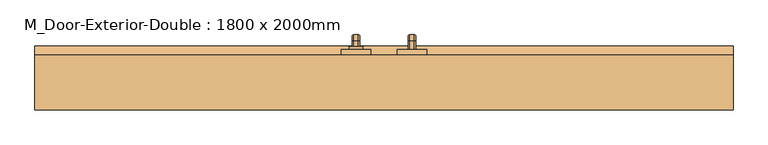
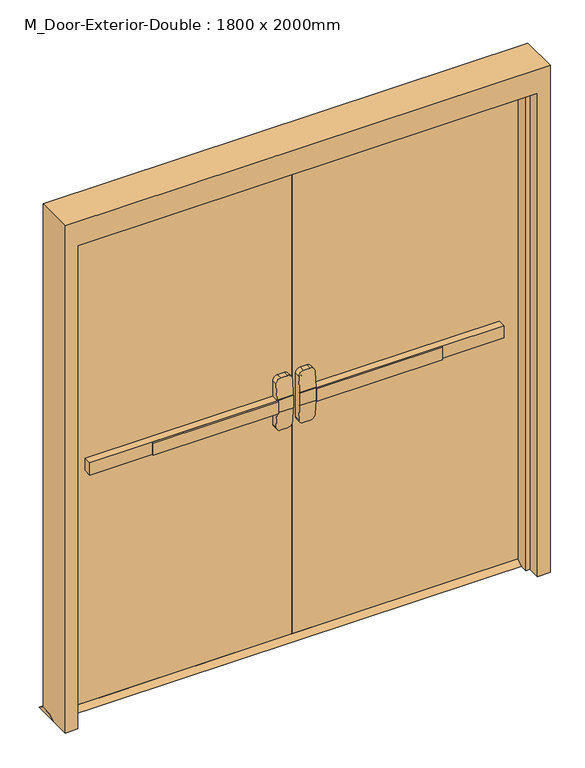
"""IFC4 building model written with IfcOpenShell, lengths in millimetres: door geometry, M_Door-Exterior-Double : 1800 x 2000mm."""

from ifc_helpers import new_model, si_unit, point, frame, frame_2d, origin, place, context, project, spatial, polyline, circle_curve, ellipse_curve, trimmed, segment, composite_curve, outline, extrude, faceted_brep, source, transform, mapped, element, save
from ifc_brep_helpers import plane_surface, cylinder_surface, revolved_surface, advanced_brep


def m_door_exterior_double_1800_x_2000mm_bb9cb4d2(model_context):
    return source(origin(), model_context, "Body", "SolidModel", [
        extrude(outline(polyline([(-566.1333333, 112.75), (-566.1333333, 119.1), (-76.2, 119.1), (-76.2, 112.75), (-566.1333333, 112.75)])), frame((0.0, 0.0, 974.6), z_axis=(0.0, 0.0, 1.0), x_axis=(1.0, 0.0, 0.0)), (0.0, 0.0, 1.0), 50.8),
        advanced_brep(
        [(-12.7, 119.1, 1025.4), (-76.2, 119.1, 1025.4), (-811.1, 119.1, 1025.4), (-811.1, 119.1, 974.6), (-76.2, 119.1, 974.6), (-12.7, 119.1, 974.6), (-811.1, 150.85, 1025.4), (-76.2, 150.85, 1025.4), (-76.2, 150.85, 1088.9), (-57.15, 150.85, 1107.95), (-31.75, 150.85, 1107.95), (-12.7, 150.85, 1088.9), (-12.7, 150.85, 911.1), (-31.75, 150.85, 892.05), (-57.15, 150.85, 892.05), (-76.2, 150.85, 911.1), (-76.2, 150.85, 974.6), (-811.1, 150.85, 974.6), (-12.7, 122.2752467, 1025.4), (-76.2, 122.2752467, 1025.4), (-12.7, 122.2752467, 974.6), (-12.7, 127.2854269, 911.1), (-12.7, 127.2854269, 1088.9), (-76.2, 122.2752467, 974.6), (-76.2, 127.2854269, 1088.9), (-76.2, 127.2854269, 911.1), (-57.15, 128.788481, 1107.95), (-31.75, 128.788481, 1107.95), (-31.75, 128.788481, 892.05), (-57.15, 128.788481, 892.05)],
        [
            (0, 1),
            (1, 2),
            (2, 3),
            (3, 4),
            (4, 5),
            (5, 0),
            (6, 7),
            (7, 8),
            (8, 9, circle_curve(frame((-57.15, 150.85, 1088.9), z_axis=(0.0, 1.0, 0.0), x_axis=(-1.0, 0.0, 0.0)), 19.05)),
            (9, 10),
            (10, 11, circle_curve(frame((-31.75, 150.85, 1088.9), z_axis=(0.0, 1.0, 0.0), x_axis=(-1.0, 0.0, 0.0)), 19.05)),
            (11, 12),
            (12, 13, circle_curve(frame((-31.75, 150.85, 911.1), z_axis=(0.0, 1.0, 0.0), x_axis=(-1.0, 0.0, 0.0)), 19.05)),
            (13, 14),
            (14, 15, circle_curve(frame((-57.15, 150.85, 911.1), z_axis=(0.0, 1.0, 0.0), x_axis=(-1.0, 0.0, 0.0)), 19.05)),
            (15, 16),
            (16, 17),
            (17, 6),
            (0, 18),
            (18, 19),
            (19, 7),
            (6, 2),
            (5, 20),
            (20, 21),
            (21, 12),
            (11, 22),
            (22, 18),
            (16, 23),
            (23, 20),
            (3, 17),
            (19, 24),
            (24, 8),
            (15, 25),
            (25, 23),
            (9, 26),
            (26, 27),
            (27, 10),
            (13, 28),
            (28, 29),
            (29, 14),
            (29, 25, ellipse_curve(frame((-57.15, 127.2854269, 911.1), z_axis=(0.0, 0.9969018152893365, 0.07865602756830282), x_axis=(0.0, -0.07865602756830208, 0.9969018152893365)), 19.1092038, 19.05)),
            (24, 26, ellipse_curve(frame((-57.15, 127.2854269, 1088.9), z_axis=(0.0, 0.9969018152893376, -0.07865602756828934), x_axis=(0.0, -0.078656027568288, -0.9969018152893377)), 19.1092038, 19.05)),
            (27, 22, ellipse_curve(frame((-31.75, 127.2854269, 1088.9), z_axis=(0.0, 0.9969018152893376, -0.07865602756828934), x_axis=(0.0, -0.078656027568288, -0.9969018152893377)), 19.1092038, 19.05)),
            (21, 28, ellipse_curve(frame((-31.75, 127.2854269, 911.1), z_axis=(0.0, 0.9969018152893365, 0.07865602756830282), x_axis=(0.0, -0.07865602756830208, 0.9969018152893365)), 19.1092038, 19.05)),
        ],
        [
            plane_surface(frame((-12.7, 119.1, 1025.4), z_axis=(0.0, -1.0, 0.0), x_axis=(1.0, 0.0, 0.0))),
            plane_surface(frame((-12.7, 150.85, 1025.4), z_axis=(0.0, 1.0, 0.0), x_axis=(-1.0, 0.0, 0.0))),
            plane_surface(frame((-811.1, 119.1, 1025.4), z_axis=(0.0, 0.0, 1.0), x_axis=(0.0, 1.0, 0.0))),
            plane_surface(frame((-12.7, 119.1, 1025.4), z_axis=(1.0, 0.0, 0.0), x_axis=(0.0, 1.0, 0.0))),
            plane_surface(frame((-12.7, 119.1, 974.6), z_axis=(0.0, 0.0, -1.0), x_axis=(0.0, 1.0, 0.0))),
            plane_surface(frame((-811.1, 119.1, 974.6), z_axis=(-1.0, 0.0, 0.0), x_axis=(0.0, 1.0, 0.0))),
            plane_surface(frame((-76.2, 122.2752467, 911.1), z_axis=(-1.0, 0.0, 0.0), x_axis=(0.0, 1.0, 0.0))),
            plane_surface(frame((-57.15, 122.2752467, 1107.95), z_axis=(0.0, 0.0, 1.0), x_axis=(0.0, 1.0, 0.0))),
            plane_surface(frame((-31.75, 122.2752467, 892.05), z_axis=(0.0, 0.0, -1.0), x_axis=(0.0, 1.0, 0.0))),
            cylinder_surface(frame((-57.15, 150.85, 911.1), z_axis=(0.0, -1.0, 0.0), x_axis=(-1.0, 0.0, 0.0)), 19.05),
            cylinder_surface(frame((-57.15, 150.85, 1088.9), z_axis=(0.0, -1.0, 0.0), x_axis=(-1.0, 0.0, 0.0)), 19.05),
            cylinder_surface(frame((-31.75, 150.85, 1088.9), z_axis=(0.0, -1.0, 0.0), x_axis=(-1.0, 0.0, 0.0)), 19.05),
            cylinder_surface(frame((-31.75, 150.85, 911.1), z_axis=(0.0, -1.0, 0.0), x_axis=(-1.0, 0.0, 0.0)), 19.05),
            plane_surface(frame((-76.2, 122.2752467, 1025.4), z_axis=(0.0, -0.9969018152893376, 0.07865602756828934), x_axis=(1.0, 0.0, 0.0))),
            plane_surface(frame((-76.2, 128.788481, 892.05), z_axis=(0.0, -0.9969018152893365, -0.07865602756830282), x_axis=(1.0, 0.0, 0.0))),
        ],
        [
            (0, [[1, 2, 3, 4, 5, 6]]),
            (1, [[7, 8, 9, 10, 11, 12, 13, 14, 15, 16, 17, 18]]),
            (2, [[-2, -1, 19, 20, 21, -7, 22]]),
            (3, [[23, 24, 25, -12, 26, 27, -19, -6]]),
            (4, [[-17, 28, 29, -23, -5, -4, 30]]),
            (5, [[-22, -18, -30, -3]]),
            (6, [[-21, 31, 32, -8]]),
            (6, [[33, 34, -28, -16]]),
            (7, [[35, 36, 37, -10]]),
            (8, [[38, 39, 40, -14]]),
            (9, [[-40, 41, -33, -15]]),
            (10, [[-32, 42, -35, -9]]),
            (11, [[-37, 43, -26, -11]]),
            (12, [[-25, 44, -38, -13]]),
            (13, [[-27, -43, -36, -42, -31, -20]]),
            (14, [[-29, -34, -41, -39, -44, -24]]),
        ],
    ),
        extrude(outline(polyline([(195.85, 15.0), (221.25, 0.0), (125.45, 0.0), (150.85, 15.0), (195.85, 15.0)])), frame((-950.0, 0.0, 0.0), z_axis=(1.0, 0.0, 0.0), x_axis=(0.0, 1.0, 0.0)), (0.0, 0.0, 1.0), 1900.0),
        extrude(outline(polyline([(566.1333333, 112.75), (76.2, 112.75), (76.2, 119.1), (566.1333333, 119.1), (566.1333333, 112.75)])), frame((0.0, 0.0, 974.6), z_axis=(0.0, 0.0, 1.0), x_axis=(1.0, 0.0, 0.0)), (0.0, 0.0, 1.0), 50.8),
        advanced_brep(
        [(12.7, 119.1, 1025.4), (12.7, 119.1, 974.6), (76.2, 119.1, 974.6), (811.1, 119.1, 974.6), (811.1, 119.1, 1025.4), (76.2, 119.1, 1025.4), (811.1, 150.85, 1025.4), (811.1, 150.85, 974.6), (76.2, 150.85, 974.6), (76.2, 150.85, 911.1), (57.15, 150.85, 892.05), (31.75, 150.85, 892.05), (12.7, 150.85, 911.1), (12.7, 150.85, 1088.9), (31.75, 150.85, 1107.95), (57.15, 150.85, 1107.95), (76.2, 150.85, 1088.9), (76.2, 150.85, 1025.4), (76.2, 122.2752467, 1025.4), (12.7, 122.2752467, 1025.4), (12.7, 127.2854269, 1088.9), (12.7, 127.2854269, 911.1), (12.7, 122.2752467, 974.6), (76.2, 122.2752467, 974.6), (76.2, 127.2854269, 911.1), (76.2, 127.2854269, 1088.9), (31.75, 128.788481, 1107.95), (57.15, 128.788481, 1107.95), (57.15, 128.788481, 892.05), (31.75, 128.788481, 892.05)],
        [
            (0, 1),
            (1, 2),
            (2, 3),
            (3, 4),
            (4, 5),
            (5, 0),
            (6, 7),
            (7, 8),
            (8, 9),
            (9, 10, circle_curve(frame((57.15, 150.85, 911.1), z_axis=(0.0, 1.0, 0.0), x_axis=(1.0, 0.0, 0.0)), 19.05)),
            (10, 11),
            (11, 12, circle_curve(frame((31.75, 150.85, 911.1), z_axis=(0.0, 1.0, 0.0), x_axis=(1.0, 0.0, 0.0)), 19.05)),
            (12, 13),
            (13, 14, circle_curve(frame((31.75, 150.85, 1088.9), z_axis=(0.0, 1.0, 0.0), x_axis=(1.0, 0.0, 0.0)), 19.05)),
            (14, 15),
            (15, 16, circle_curve(frame((57.15, 150.85, 1088.9), z_axis=(0.0, 1.0, 0.0), x_axis=(1.0, 0.0, 0.0)), 19.05)),
            (16, 17),
            (17, 6),
            (4, 6),
            (17, 18),
            (18, 19),
            (19, 0),
            (19, 20),
            (20, 13),
            (12, 21),
            (21, 22),
            (22, 1),
            (7, 3),
            (22, 23),
            (23, 8),
            (23, 24),
            (24, 9),
            (16, 25),
            (25, 18),
            (14, 26),
            (26, 27),
            (27, 15),
            (10, 28),
            (28, 29),
            (29, 11),
            (24, 28, ellipse_curve(frame((57.15, 127.2854269, 911.1), z_axis=(0.0, 0.9969018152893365, 0.07865602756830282), x_axis=(0.0, -0.07865602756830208, 0.9969018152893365)), 19.1092038, 19.05)),
            (27, 25, ellipse_curve(frame((57.15, 127.2854269, 1088.9), z_axis=(0.0, 0.9969018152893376, -0.07865602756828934), x_axis=(0.0, -0.078656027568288, -0.9969018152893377)), 19.1092038, 19.05)),
            (20, 26, ellipse_curve(frame((31.75, 127.2854269, 1088.9), z_axis=(0.0, 0.9969018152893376, -0.07865602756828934), x_axis=(0.0, -0.078656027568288, -0.9969018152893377)), 19.1092038, 19.05)),
            (29, 21, ellipse_curve(frame((31.75, 127.2854269, 911.1), z_axis=(0.0, 0.9969018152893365, 0.07865602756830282), x_axis=(0.0, -0.07865602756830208, 0.9969018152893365)), 19.1092038, 19.05)),
        ],
        [
            plane_surface(frame((12.7, 119.1, 1025.4), z_axis=(0.0, -1.0, 0.0), x_axis=(-1.0, 0.0, 0.0))),
            plane_surface(frame((12.7, 150.85, 1025.4), z_axis=(0.0, 1.0, 0.0), x_axis=(1.0, 0.0, 0.0))),
            plane_surface(frame((811.1, 119.1, 1025.4), z_axis=(0.0, 0.0, 1.0), x_axis=(0.0, 1.0, 0.0))),
            plane_surface(frame((12.7, 119.1, 1025.4), z_axis=(-1.0, 0.0, 0.0), x_axis=(0.0, 1.0, 0.0))),
            plane_surface(frame((12.7, 119.1, 974.6), z_axis=(0.0, 0.0, -1.0), x_axis=(0.0, 1.0, 0.0))),
            plane_surface(frame((811.1, 119.1, 974.6), z_axis=(1.0, 0.0, 0.0), x_axis=(0.0, 1.0, 0.0))),
            plane_surface(frame((76.2, 122.2752467, 911.1), z_axis=(1.0, 0.0, 0.0), x_axis=(0.0, 1.0, 0.0))),
            plane_surface(frame((57.15, 122.2752467, 1107.95), z_axis=(0.0, 0.0, 1.0), x_axis=(0.0, 1.0, 0.0))),
            plane_surface(frame((31.75, 122.2752467, 892.05), z_axis=(0.0, 0.0, -1.0), x_axis=(0.0, 1.0, 0.0))),
            cylinder_surface(frame((57.15, 150.85, 911.1), z_axis=(0.0, -1.0, 0.0), x_axis=(1.0, 0.0, 0.0)), 19.05),
            cylinder_surface(frame((57.15, 150.85, 1088.9), z_axis=(0.0, -1.0, 0.0), x_axis=(1.0, 0.0, 0.0)), 19.05),
            cylinder_surface(frame((31.75, 150.85, 1088.9), z_axis=(0.0, -1.0, 0.0), x_axis=(1.0, 0.0, 0.0)), 19.05),
            cylinder_surface(frame((31.75, 150.85, 911.1), z_axis=(0.0, -1.0, 0.0), x_axis=(1.0, 0.0, 0.0)), 19.05),
            plane_surface(frame((76.2, 122.2752467, 1025.4), z_axis=(0.0, -0.9969018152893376, 0.07865602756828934), x_axis=(-1.0, 0.0, 0.0))),
            plane_surface(frame((76.2, 128.788481, 892.05), z_axis=(0.0, -0.9969018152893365, -0.07865602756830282), x_axis=(-1.0, 0.0, 0.0))),
        ],
        [
            (0, [[1, 2, 3, 4, 5, 6]]),
            (1, [[7, 8, 9, 10, 11, 12, 13, 14, 15, 16, 17, 18]]),
            (2, [[19, -18, 20, 21, 22, -6, -5]]),
            (3, [[-1, -22, 23, 24, -13, 25, 26, 27]]),
            (4, [[28, -3, -2, -27, 29, 30, -8]]),
            (5, [[-4, -28, -7, -19]]),
            (6, [[-9, -30, 31, 32]]),
            (6, [[-17, 33, 34, -20]]),
            (7, [[-15, 35, 36, 37]]),
            (8, [[-11, 38, 39, 40]]),
            (9, [[-10, -32, 41, -38]]),
            (10, [[-16, -37, 42, -33]]),
            (11, [[-14, -24, 43, -35]]),
            (12, [[-12, -40, 44, -25]]),
            (13, [[-21, -34, -42, -36, -43, -23]]),
            (14, [[-26, -44, -39, -41, -31, -29]]),
        ],
    ),
        advanced_brep(
        [(66.2, 208.55, 1001.190625), (66.2, 208.55, 998.809375), (69.771875, 208.55, 995.2375), (82.6284594, 208.55, 995.2375), (86.2, 208.55, 998.8090406), (86.2, 208.55, 1001.190625), (82.628125, 208.55, 1004.7625), (69.771875, 208.55, 1004.7625), (66.2, 208.55, 874.609375), (69.771875, 208.55, 871.0375), (82.628125, 208.55, 871.0375), (86.2, 208.55, 874.609375), (86.2, 208.55, 876.9909594), (82.6284594, 208.55, 880.5625), (69.771875, 208.55, 880.5625), (66.2, 208.55, 876.990625), (66.2, 233.95, 1001.190625), (66.2, 247.840625, 987.3), (66.2, 247.840625, 888.5), (66.2, 233.95, 874.609375), (66.2, 233.95, 876.990625), (66.2, 245.459375, 888.5), (66.2, 245.459375, 987.3), (66.2, 233.95, 998.809375), (69.771875, 233.95, 995.2375), (82.6284594, 233.95, 995.2375), (86.2, 233.95, 998.8090406), (86.2, 245.4590406, 987.3), (86.2, 245.4590406, 888.5), (86.2, 233.95, 876.9909594), (86.2, 233.95, 874.609375), (86.2, 247.840625, 888.5), (86.2, 247.840625, 987.3), (86.2, 233.95, 1001.190625), (82.628125, 233.95, 1004.7625), (69.771875, 233.95, 1004.7625), (69.771875, 241.8875, 987.3), (82.6284594, 241.8875, 987.3), (82.628125, 251.4125, 987.3), (69.771875, 251.4125, 987.3), (69.771875, 241.8875, 888.5), (82.6284594, 241.8875, 888.5), (82.628125, 251.4125, 888.5), (69.771875, 251.4125, 888.5), (69.771875, 233.95, 880.5625), (82.6284594, 233.95, 880.5625), (82.628125, 233.95, 871.0375), (69.771875, 233.95, 871.0375)],
        [
            (0, 1),
            (1, 2, circle_curve(frame((69.771875, 208.55, 998.809375), z_axis=(0.0, -1.0, 0.0), x_axis=(0.0, 0.0, 1.0)), 3.571875)),
            (2, 3),
            (3, 4, circle_curve(frame((82.6284594, 208.55, 998.8090406), z_axis=(0.0, -1.0, 0.0), x_axis=(0.0, 0.0, 1.0)), 3.5715406)),
            (4, 5),
            (5, 6, circle_curve(frame((82.628125, 208.55, 1001.190625), z_axis=(0.0, -1.0, 0.0), x_axis=(0.0, 0.0, 1.0)), 3.571875)),
            (6, 7),
            (7, 0, circle_curve(frame((69.771875, 208.55, 1001.190625), z_axis=(0.0, -1.0, 0.0), x_axis=(0.0, 0.0, 1.0)), 3.571875)),
            (8, 9, circle_curve(frame((69.771875, 208.55, 874.609375), z_axis=(0.0, -1.0, 0.0), x_axis=(0.0, 0.0, -1.0)), 3.571875)),
            (9, 10),
            (10, 11, circle_curve(frame((82.628125, 208.55, 874.609375), z_axis=(0.0, -1.0, 0.0), x_axis=(0.0, 0.0, -1.0)), 3.571875)),
            (11, 12),
            (12, 13, circle_curve(frame((82.6284594, 208.55, 876.9909594), z_axis=(0.0, -1.0, 0.0), x_axis=(0.0, 0.0, -1.0)), 3.5715406)),
            (13, 14),
            (14, 15, circle_curve(frame((69.771875, 208.55, 876.990625), z_axis=(0.0, -1.0, 0.0), x_axis=(0.0, 0.0, -1.0)), 3.571875)),
            (15, 8),
            (0, 16),
            (16, 17, circle_curve(frame((66.2, 233.95, 987.3), z_axis=(-1.0, 0.0, 0.0), x_axis=(0.0, 0.0, 1.0)), 13.890625)),
            (17, 18),
            (18, 19, circle_curve(frame((66.2, 233.95, 888.5), z_axis=(-1.0, 0.0, 0.0), x_axis=(0.0, 1.0, 0.0)), 13.890625)),
            (19, 8),
            (15, 20),
            (20, 21, circle_curve(frame((66.2, 233.95, 888.5), z_axis=(1.0, 0.0, 0.0), x_axis=(0.0, 1.0, 0.0)), 11.509375)),
            (21, 22),
            (22, 23, circle_curve(frame((66.2, 233.95, 987.3), z_axis=(1.0, 0.0, 0.0), x_axis=(0.0, 0.0, 1.0)), 11.509375)),
            (23, 1),
            (23, 24, circle_curve(frame((69.771875, 233.95, 998.809375), z_axis=(0.0, -1.0, 0.0), x_axis=(0.0, 0.0, 1.0)), 3.571875)),
            (24, 2),
            (24, 25),
            (25, 3),
            (25, 26, circle_curve(frame((82.6284594, 233.95, 998.8090406), z_axis=(0.0, -1.0, 0.0), x_axis=(0.0, 0.0, 1.0)), 3.5715406)),
            (26, 4),
            (26, 27, circle_curve(frame((86.2, 233.95, 987.3), z_axis=(-1.0, 0.0, 0.0), x_axis=(0.0, 0.0, 1.0)), 11.5090406)),
            (27, 28),
            (28, 29, circle_curve(frame((86.2, 233.95, 888.5), z_axis=(-1.0, 0.0, 0.0), x_axis=(0.0, 1.0, 0.0)), 11.5090406)),
            (29, 12),
            (11, 30),
            (30, 31, circle_curve(frame((86.2, 233.95, 888.5), z_axis=(1.0, 0.0, 0.0), x_axis=(0.0, 1.0, 0.0)), 13.890625)),
            (31, 32),
            (32, 33, circle_curve(frame((86.2, 233.95, 987.3), z_axis=(1.0, 0.0, 0.0), x_axis=(0.0, 0.0, 1.0)), 13.890625)),
            (33, 5),
            (33, 34, circle_curve(frame((82.628125, 233.95, 1001.190625), z_axis=(0.0, -1.0, 0.0), x_axis=(0.0, 0.0, 1.0)), 3.571875)),
            (34, 6),
            (34, 35),
            (35, 7),
            (35, 16, circle_curve(frame((69.771875, 233.95, 1001.190625), z_axis=(0.0, -1.0, 0.0), x_axis=(0.0, 0.0, 1.0)), 3.571875)),
            (36, 24, circle_curve(frame((69.771875, 233.95, 987.3), z_axis=(1.0, 0.0, 0.0), x_axis=(0.0, 0.0, 1.0)), 7.9375)),
            (22, 36, circle_curve(frame((69.771875, 245.459375, 987.3), z_axis=(0.0, 0.0, 1.0), x_axis=(0.0, 1.0, 0.0)), 3.571875)),
            (37, 25, circle_curve(frame((82.6284594, 233.95, 987.3), z_axis=(1.0, 0.0, 0.0), x_axis=(0.0, 0.0, 1.0)), 7.9375)),
            (36, 37),
            (37, 27, circle_curve(frame((82.6284594, 245.4590406, 987.3), z_axis=(0.0, 0.0, 1.0), x_axis=(0.0, 1.0, 0.0)), 3.5715406)),
            (38, 34, circle_curve(frame((82.628125, 233.95, 987.3), z_axis=(1.0, 0.0, 0.0), x_axis=(0.0, 0.0, 1.0)), 17.4625)),
            (32, 38, circle_curve(frame((82.628125, 247.840625, 987.3), z_axis=(0.0, 0.0, 1.0), x_axis=(0.0, 1.0, 0.0)), 3.571875)),
            (39, 35, circle_curve(frame((69.771875, 233.95, 987.3), z_axis=(1.0, 0.0, 0.0), x_axis=(0.0, 0.0, 1.0)), 17.4625)),
            (38, 39),
            (39, 17, circle_curve(frame((69.771875, 247.840625, 987.3), z_axis=(0.0, 0.0, 1.0), x_axis=(0.0, 1.0, 0.0)), 3.571875)),
            (21, 40, circle_curve(frame((69.771875, 245.459375, 888.5), z_axis=(0.0, 0.0, 1.0), x_axis=(0.0, 1.0, 0.0)), 3.571875)),
            (40, 36),
            (40, 41),
            (41, 37),
            (41, 28, circle_curve(frame((82.6284594, 245.4590406, 888.5), z_axis=(0.0, 0.0, 1.0), x_axis=(0.0, 1.0, 0.0)), 3.5715406)),
            (31, 42, circle_curve(frame((82.628125, 247.840625, 888.5), z_axis=(0.0, 0.0, 1.0), x_axis=(0.0, 1.0, 0.0)), 3.571875)),
            (42, 38),
            (42, 43),
            (43, 39),
            (43, 18, circle_curve(frame((69.771875, 247.840625, 888.5), z_axis=(0.0, 0.0, 1.0), x_axis=(0.0, 1.0, 0.0)), 3.571875)),
            (44, 40, circle_curve(frame((69.771875, 233.95, 888.5), z_axis=(1.0, 0.0, 0.0), x_axis=(0.0, 1.0, 0.0)), 7.9375)),
            (20, 44, circle_curve(frame((69.771875, 233.95, 876.990625), z_axis=(0.0, 1.0, 0.0), x_axis=(0.0, 0.0, -1.0)), 3.571875)),
            (45, 41, circle_curve(frame((82.6284594, 233.95, 888.5), z_axis=(1.0, 0.0, 0.0), x_axis=(0.0, 1.0, 0.0)), 7.9375)),
            (44, 45),
            (45, 29, circle_curve(frame((82.6284594, 233.95, 876.9909594), z_axis=(0.0, 1.0, 0.0), x_axis=(0.0, 0.0, -1.0)), 3.5715406)),
            (46, 42, circle_curve(frame((82.628125, 233.95, 888.5), z_axis=(1.0, 0.0, 0.0), x_axis=(0.0, 1.0, 0.0)), 17.4625)),
            (30, 46, circle_curve(frame((82.628125, 233.95, 874.609375), z_axis=(0.0, 1.0, 0.0), x_axis=(0.0, 0.0, -1.0)), 3.571875)),
            (47, 43, circle_curve(frame((69.771875, 233.95, 888.5), z_axis=(1.0, 0.0, 0.0), x_axis=(0.0, 1.0, 0.0)), 17.4625)),
            (46, 47),
            (47, 19, circle_curve(frame((69.771875, 233.95, 874.609375), z_axis=(0.0, 1.0, 0.0), x_axis=(0.0, 0.0, -1.0)), 3.571875)),
            (14, 44),
            (13, 45),
            (10, 46),
            (9, 47),
        ],
        [
            plane_surface(frame((76.2, 208.55, 1000.0), z_axis=(0.0, -1.0, 0.0), x_axis=(1.0, 0.0, 0.0))),
            plane_surface(frame((76.2, 208.55, 875.8), z_axis=(0.0, -1.0, 0.0), x_axis=(1.0, 0.0, 0.0))),
            plane_surface(frame((66.2, 208.55, 1001.190625), z_axis=(-1.0, 0.0, 0.0), x_axis=(0.0, 1.0, 0.0))),
            cylinder_surface(frame((69.771875, 208.55, 998.809375), z_axis=(0.0, -1.0, 0.0), x_axis=(0.0, 0.0, 1.0)), 3.571875),
            plane_surface(frame((69.771875, 208.55, 995.2375), z_axis=(0.0, 0.0, -1.0), x_axis=(0.0, 1.0, 0.0))),
            cylinder_surface(frame((82.6284594, 208.55, 998.8090406), z_axis=(0.0, -1.0, 0.0), x_axis=(0.0, 0.0, 1.0)), 3.5715406),
            plane_surface(frame((86.2, 208.55, 998.8090406), z_axis=(1.0, 0.0, 0.0), x_axis=(0.0, 1.0, 0.0))),
            cylinder_surface(frame((82.628125, 208.55, 1001.190625), z_axis=(0.0, -1.0, 0.0), x_axis=(0.0, 0.0, 1.0)), 3.571875),
            plane_surface(frame((82.628125, 208.55, 1004.7625), z_axis=(0.0, 0.0, 1.0), x_axis=(0.0, 1.0, 0.0))),
            cylinder_surface(frame((69.771875, 208.55, 1001.190625), z_axis=(0.0, -1.0, 0.0), x_axis=(0.0, 0.0, 1.0)), 3.571875),
            revolved_surface(trimmed(ellipse_curve(frame((69.771875, 233.95, 998.809375), z_axis=(0.0, -1.0, 0.0), x_axis=(0.0, 0.0, 1.0)), 3.571875, 3.571875), [point((66.2, 233.95, 998.809375))], [point((69.771875, 233.95, 995.2375))], True, "CARTESIAN"), (76.2, 233.95, 987.3), (-1.0, 0.0, 0.0)),
            revolved_surface(polyline([(69.771875, 233.95, 995.2375), (82.6284594, 233.95, 995.2375)]), (76.2, 233.95, 987.3), (-1.0, 0.0, 0.0)),
            revolved_surface(trimmed(ellipse_curve(frame((82.6284594, 233.95, 998.8090406), z_axis=(0.0, -1.0, 0.0), x_axis=(0.0, 0.0, 1.0)), 3.5715406, 3.5715406), [point((82.6284594, 233.95, 995.2375))], [point((86.2, 233.95, 998.8090406))], True, "CARTESIAN"), (76.2, 233.95, 987.3), (-1.0, 0.0, 0.0)),
            revolved_surface(trimmed(ellipse_curve(frame((82.628125, 233.95, 1001.190625), z_axis=(0.0, -1.0, 0.0), x_axis=(0.0, 0.0, 1.0)), 3.571875, 3.571875), [point((86.2, 233.95, 1001.190625))], [point((82.628125, 233.95, 1004.7625))], True, "CARTESIAN"), (76.2, 233.95, 987.3), (-1.0, 0.0, 0.0)),
            cylinder_surface(frame((76.2, 233.95, 987.3), z_axis=(-1.0, 0.0, 0.0), x_axis=(0.0, 0.0, 1.0)), 17.4625),
            revolved_surface(trimmed(ellipse_curve(frame((69.771875, 233.95, 1001.190625), z_axis=(0.0, -1.0, 0.0), x_axis=(0.0, 0.0, 1.0)), 3.571875, 3.571875), [point((69.771875, 233.95, 1004.7625))], [point((66.2, 233.95, 1001.190625))], True, "CARTESIAN"), (76.2, 233.95, 987.3), (-1.0, 0.0, 0.0)),
            cylinder_surface(frame((69.771875, 245.459375, 987.3), z_axis=(0.0, 0.0, 1.0), x_axis=(0.0, 1.0, 0.0)), 3.571875),
            plane_surface(frame((69.771875, 241.8875, 987.3), z_axis=(0.0, -1.0, 0.0), x_axis=(0.0, 0.0, -1.0))),
            cylinder_surface(frame((82.6284594, 245.4590406, 987.3), z_axis=(0.0, 0.0, 1.0), x_axis=(0.0, 1.0, 0.0)), 3.5715406),
            cylinder_surface(frame((82.628125, 247.840625, 987.3), z_axis=(0.0, 0.0, 1.0), x_axis=(0.0, 1.0, 0.0)), 3.571875),
            plane_surface(frame((82.628125, 251.4125, 987.3), z_axis=(0.0, 1.0, 0.0), x_axis=(0.0, 0.0, -1.0))),
            cylinder_surface(frame((69.771875, 247.840625, 987.3), z_axis=(0.0, 0.0, 1.0), x_axis=(0.0, 1.0, 0.0)), 3.571875),
            revolved_surface(trimmed(ellipse_curve(frame((69.771875, 245.459375, 888.5), z_axis=(0.0, 0.0, 1.0), x_axis=(0.0, 1.0, 0.0)), 3.571875, 3.571875), [point((66.2, 245.459375, 888.5))], [point((69.771875, 241.8875, 888.5))], True, "CARTESIAN"), (76.2, 233.95, 888.5), (-1.0, 0.0, 0.0)),
            revolved_surface(polyline([(69.771875, 241.8875, 888.5), (82.6284594, 241.8875, 888.5)]), (76.2, 233.95, 888.5), (-1.0, 0.0, 0.0)),
            revolved_surface(trimmed(ellipse_curve(frame((82.6284594, 245.4590406, 888.5), z_axis=(0.0, 0.0, 1.0), x_axis=(0.0, 1.0, 0.0)), 3.5715406, 3.5715406), [point((82.6284594, 241.8875, 888.5))], [point((86.2, 245.4590406, 888.5))], True, "CARTESIAN"), (76.2, 233.95, 888.5), (-1.0, 0.0, 0.0)),
            revolved_surface(trimmed(ellipse_curve(frame((82.628125, 247.840625, 888.5), z_axis=(0.0, 0.0, 1.0), x_axis=(0.0, 1.0, 0.0)), 3.571875, 3.571875), [point((86.2, 247.840625, 888.5))], [point((82.628125, 251.4125, 888.5))], True, "CARTESIAN"), (76.2, 233.95, 888.5), (-1.0, 0.0, 0.0)),
            cylinder_surface(frame((76.2, 233.95, 888.5), z_axis=(-1.0, 0.0, 0.0), x_axis=(0.0, 1.0, 0.0)), 17.4625),
            revolved_surface(trimmed(ellipse_curve(frame((69.771875, 247.840625, 888.5), z_axis=(0.0, 0.0, 1.0), x_axis=(0.0, 1.0, 0.0)), 3.571875, 3.571875), [point((69.771875, 251.4125, 888.5))], [point((66.2, 247.840625, 888.5))], True, "CARTESIAN"), (76.2, 233.95, 888.5), (-1.0, 0.0, 0.0)),
            cylinder_surface(frame((69.771875, 233.95, 876.990625), z_axis=(0.0, 1.0, 0.0), x_axis=(0.0, 0.0, -1.0)), 3.571875),
            plane_surface(frame((69.771875, 233.95, 880.5625), z_axis=(0.0, 0.0, 1.0), x_axis=(0.0, -1.0, 0.0))),
            cylinder_surface(frame((82.6284594, 233.95, 876.9909594), z_axis=(0.0, 1.0, 0.0), x_axis=(0.0, 0.0, -1.0)), 3.5715406),
            cylinder_surface(frame((82.628125, 233.95, 874.609375), z_axis=(0.0, 1.0, 0.0), x_axis=(0.0, 0.0, -1.0)), 3.571875),
            plane_surface(frame((82.628125, 233.95, 871.0375), z_axis=(0.0, 0.0, -1.0), x_axis=(0.0, -1.0, 0.0))),
            cylinder_surface(frame((69.771875, 233.95, 874.609375), z_axis=(0.0, 1.0, 0.0), x_axis=(0.0, 0.0, -1.0)), 3.571875),
        ],
        [
            (0, [[1, 2, 3, 4, 5, 6, 7, 8]]),
            (1, [[9, 10, 11, 12, 13, 14, 15, 16]]),
            (2, [[-1, 17, 18, 19, 20, 21, -16, 22, 23, 24, 25, 26]]),
            (3, [[-2, -26, 27, 28]]),
            (4, [[-3, -28, 29, 30]]),
            (5, [[-4, -30, 31, 32]]),
            (6, [[-5, -32, 33, 34, 35, 36, -12, 37, 38, 39, 40, 41]]),
            (7, [[-6, -41, 42, 43]]),
            (8, [[-7, -43, 44, 45]]),
            (9, [[-8, -45, 46, -17]]),
            (10, [[47, -27, -25, 48]]),
            (11, [[49, -29, -47, 50]]),
            (12, [[-33, -31, -49, 51]]),
            (13, [[52, -42, -40, 53]]),
            (14, [[54, -44, -52, 55]]),
            (15, [[-18, -46, -54, 56]]),
            (16, [[-48, -24, 57, 58]]),
            (17, [[-50, -58, 59, 60]]),
            (18, [[-51, -60, 61, -34]]),
            (19, [[-53, -39, 62, 63]]),
            (20, [[-55, -63, 64, 65]]),
            (21, [[-56, -65, 66, -19]]),
            (22, [[67, -57, -23, 68]]),
            (23, [[69, -59, -67, 70]]),
            (24, [[-35, -61, -69, 71]]),
            (25, [[72, -62, -38, 73]]),
            (26, [[74, -64, -72, 75]]),
            (27, [[-20, -66, -74, 76]]),
            (28, [[-68, -22, -15, 77]]),
            (29, [[-70, -77, -14, 78]]),
            (30, [[-71, -78, -13, -36]]),
            (31, [[-73, -37, -11, 79]]),
            (32, [[-75, -79, -10, 80]]),
            (33, [[-76, -80, -9, -21]]),
        ],
    ),
        extrude(outline(composite_curve([segment(trimmed(circle_curve(frame_2d((1094.2338574, 76.2)), 90.1286291), [point((1175.0, 116.2))], [point((1175.0, 36.2))], False, "CARTESIAN"), True, "CONTINUOUS"), segment(polyline([(1175.0, 36.2), (825.0, 36.2)]), True, "CONTINUOUS"), segment(trimmed(circle_curve(frame_2d((905.7661426, 76.2)), 90.1286291), [point((825.0, 36.2))], [point((825.0, 116.2))], False, "CARTESIAN"), True, "CONTINUOUS"), segment(polyline([(825.0, 116.2), (1175.0, 116.2)]), True, "CONTINUOUS")], self_intersect=False)), frame((0.0, 195.85, 0.0), z_axis=(0.0, 1.0, 0.0), x_axis=(0.0, 0.0, 1.0)), (0.0, 0.0, 1.0), 15.0),
        advanced_brep(
        [(-86.2, 208.55, 1001.190625), (-86.2, 208.55, 998.809375), (-82.628125, 208.55, 995.2375), (-69.7715406, 208.55, 995.2375), (-66.2, 208.55, 998.8090406), (-66.2, 208.55, 1001.190625), (-69.771875, 208.55, 1004.7625), (-82.628125, 208.55, 1004.7625), (-86.2, 208.55, 874.609375), (-82.628125, 208.55, 871.0375), (-69.771875, 208.55, 871.0375), (-66.2, 208.55, 874.609375), (-66.2, 208.55, 876.9909594), (-69.7715406, 208.55, 880.5625), (-82.628125, 208.55, 880.5625), (-86.2, 208.55, 876.990625), (-86.2, 233.95, 1001.190625), (-86.2, 247.840625, 987.3), (-86.2, 247.840625, 888.5), (-86.2, 233.95, 874.609375), (-86.2, 233.95, 876.990625), (-86.2, 245.459375, 888.5), (-86.2, 245.459375, 987.3), (-86.2, 233.95, 998.809375), (-82.628125, 233.95, 995.2375), (-69.7715406, 233.95, 995.2375), (-66.2, 233.95, 998.8090406), (-66.2, 245.4590406, 987.3), (-66.2, 245.4590406, 888.5), (-66.2, 233.95, 876.9909594), (-66.2, 233.95, 874.609375), (-66.2, 247.840625, 888.5), (-66.2, 247.840625, 987.3), (-66.2, 233.95, 1001.190625), (-69.771875, 233.95, 1004.7625), (-82.628125, 233.95, 1004.7625), (-82.628125, 241.8875, 987.3), (-69.7715406, 241.8875, 987.3), (-69.771875, 251.4125, 987.3), (-82.628125, 251.4125, 987.3), (-82.628125, 241.8875, 888.5), (-69.7715406, 241.8875, 888.5), (-69.771875, 251.4125, 888.5), (-82.628125, 251.4125, 888.5), (-82.628125, 233.95, 880.5625), (-69.7715406, 233.95, 880.5625), (-69.771875, 233.95, 871.0375), (-82.628125, 233.95, 871.0375)],
        [
            (0, 1),
            (1, 2, circle_curve(frame((-82.628125, 208.55, 998.809375), z_axis=(0.0, -1.0, 0.0), x_axis=(0.0, 0.0, 1.0)), 3.571875)),
            (2, 3),
            (3, 4, circle_curve(frame((-69.7715406, 208.55, 998.8090406), z_axis=(0.0, -1.0, 0.0), x_axis=(0.0, 0.0, 1.0)), 3.5715406)),
            (4, 5),
            (5, 6, circle_curve(frame((-69.771875, 208.55, 1001.190625), z_axis=(0.0, -1.0, 0.0), x_axis=(0.0, 0.0, 1.0)), 3.571875)),
            (6, 7),
            (7, 0, circle_curve(frame((-82.628125, 208.55, 1001.190625), z_axis=(0.0, -1.0, 0.0), x_axis=(0.0, 0.0, 1.0)), 3.571875)),
            (8, 9, circle_curve(frame((-82.628125, 208.55, 874.609375), z_axis=(0.0, -1.0, 0.0), x_axis=(0.0, 0.0, -1.0)), 3.571875)),
            (9, 10),
            (10, 11, circle_curve(frame((-69.771875, 208.55, 874.609375), z_axis=(0.0, -1.0, 0.0), x_axis=(0.0, 0.0, -1.0)), 3.571875)),
            (11, 12),
            (12, 13, circle_curve(frame((-69.7715406, 208.55, 876.9909594), z_axis=(0.0, -1.0, 0.0), x_axis=(0.0, 0.0, -1.0)), 3.5715406)),
            (13, 14),
            (14, 15, circle_curve(frame((-82.628125, 208.55, 876.990625), z_axis=(0.0, -1.0, 0.0), x_axis=(0.0, 0.0, -1.0)), 3.571875)),
            (15, 8),
            (0, 16),
            (16, 17, circle_curve(frame((-86.2, 233.95, 987.3), z_axis=(-1.0, 0.0, 0.0), x_axis=(0.0, 0.0, 1.0)), 13.890625)),
            (17, 18),
            (18, 19, circle_curve(frame((-86.2, 233.95, 888.5), z_axis=(-1.0, 0.0, 0.0), x_axis=(0.0, 1.0, 0.0)), 13.890625)),
            (19, 8),
            (15, 20),
            (20, 21, circle_curve(frame((-86.2, 233.95, 888.5), z_axis=(1.0, 0.0, 0.0), x_axis=(0.0, 1.0, 0.0)), 11.509375)),
            (21, 22),
            (22, 23, circle_curve(frame((-86.2, 233.95, 987.3), z_axis=(1.0, 0.0, 0.0), x_axis=(0.0, 0.0, 1.0)), 11.509375)),
            (23, 1),
            (23, 24, circle_curve(frame((-82.628125, 233.95, 998.809375), z_axis=(0.0, -1.0, 0.0), x_axis=(0.0, 0.0, 1.0)), 3.571875)),
            (24, 2),
            (24, 25),
            (25, 3),
            (25, 26, circle_curve(frame((-69.7715406, 233.95, 998.8090406), z_axis=(0.0, -1.0, 0.0), x_axis=(0.0, 0.0, 1.0)), 3.5715406)),
            (26, 4),
            (26, 27, circle_curve(frame((-66.2, 233.95, 987.3), z_axis=(-1.0, 0.0, 0.0), x_axis=(0.0, 0.0, 1.0)), 11.5090406)),
            (27, 28),
            (28, 29, circle_curve(frame((-66.2, 233.95, 888.5), z_axis=(-1.0, 0.0, 0.0), x_axis=(0.0, 1.0, 0.0)), 11.5090406)),
            (29, 12),
            (11, 30),
            (30, 31, circle_curve(frame((-66.2, 233.95, 888.5), z_axis=(1.0, 0.0, 0.0), x_axis=(0.0, 1.0, 0.0)), 13.890625)),
            (31, 32),
            (32, 33, circle_curve(frame((-66.2, 233.95, 987.3), z_axis=(1.0, 0.0, 0.0), x_axis=(0.0, 0.0, 1.0)), 13.890625)),
            (33, 5),
            (33, 34, circle_curve(frame((-69.771875, 233.95, 1001.190625), z_axis=(0.0, -1.0, 0.0), x_axis=(0.0, 0.0, 1.0)), 3.571875)),
            (34, 6),
            (34, 35),
            (35, 7),
            (35, 16, circle_curve(frame((-82.628125, 233.95, 1001.190625), z_axis=(0.0, -1.0, 0.0), x_axis=(0.0, 0.0, 1.0)), 3.571875)),
            (36, 24, circle_curve(frame((-82.628125, 233.95, 987.3), z_axis=(1.0, 0.0, 0.0), x_axis=(0.0, 0.0, 1.0)), 7.9375)),
            (22, 36, circle_curve(frame((-82.628125, 245.459375, 987.3), z_axis=(0.0, 0.0, 1.0), x_axis=(0.0, 1.0, 0.0)), 3.571875)),
            (37, 25, circle_curve(frame((-69.7715406, 233.95, 987.3), z_axis=(1.0, 0.0, 0.0), x_axis=(0.0, 0.0, 1.0)), 7.9375)),
            (36, 37),
            (37, 27, circle_curve(frame((-69.7715406, 245.4590406, 987.3), z_axis=(0.0, 0.0, 1.0), x_axis=(0.0, 1.0, 0.0)), 3.5715406)),
            (38, 34, circle_curve(frame((-69.771875, 233.95, 987.3), z_axis=(1.0, 0.0, 0.0), x_axis=(0.0, 0.0, 1.0)), 17.4625)),
            (32, 38, circle_curve(frame((-69.771875, 247.840625, 987.3), z_axis=(0.0, 0.0, 1.0), x_axis=(0.0, 1.0, 0.0)), 3.571875)),
            (39, 35, circle_curve(frame((-82.628125, 233.95, 987.3), z_axis=(1.0, 0.0, 0.0), x_axis=(0.0, 0.0, 1.0)), 17.4625)),
            (38, 39),
            (39, 17, circle_curve(frame((-82.628125, 247.840625, 987.3), z_axis=(0.0, 0.0, 1.0), x_axis=(0.0, 1.0, 0.0)), 3.571875)),
            (21, 40, circle_curve(frame((-82.628125, 245.459375, 888.5), z_axis=(0.0, 0.0, 1.0), x_axis=(0.0, 1.0, 0.0)), 3.571875)),
            (40, 36),
            (40, 41),
            (41, 37),
            (41, 28, circle_curve(frame((-69.7715406, 245.4590406, 888.5), z_axis=(0.0, 0.0, 1.0), x_axis=(0.0, 1.0, 0.0)), 3.5715406)),
            (31, 42, circle_curve(frame((-69.771875, 247.840625, 888.5), z_axis=(0.0, 0.0, 1.0), x_axis=(0.0, 1.0, 0.0)), 3.571875)),
            (42, 38),
            (42, 43),
            (43, 39),
            (43, 18, circle_curve(frame((-82.628125, 247.840625, 888.5), z_axis=(0.0, 0.0, 1.0), x_axis=(0.0, 1.0, 0.0)), 3.571875)),
            (44, 40, circle_curve(frame((-82.628125, 233.95, 888.5), z_axis=(1.0, 0.0, 0.0), x_axis=(0.0, 1.0, 0.0)), 7.9375)),
            (20, 44, circle_curve(frame((-82.628125, 233.95, 876.990625), z_axis=(0.0, 1.0, 0.0), x_axis=(0.0, 0.0, -1.0)), 3.571875)),
            (45, 41, circle_curve(frame((-69.7715406, 233.95, 888.5), z_axis=(1.0, 0.0, 0.0), x_axis=(0.0, 1.0, 0.0)), 7.9375)),
            (44, 45),
            (45, 29, circle_curve(frame((-69.7715406, 233.95, 876.9909594), z_axis=(0.0, 1.0, 0.0), x_axis=(0.0, 0.0, -1.0)), 3.5715406)),
            (46, 42, circle_curve(frame((-69.771875, 233.95, 888.5), z_axis=(1.0, 0.0, 0.0), x_axis=(0.0, 1.0, 0.0)), 17.4625)),
            (30, 46, circle_curve(frame((-69.771875, 233.95, 874.609375), z_axis=(0.0, 1.0, 0.0), x_axis=(0.0, 0.0, -1.0)), 3.571875)),
            (47, 43, circle_curve(frame((-82.628125, 233.95, 888.5), z_axis=(1.0, 0.0, 0.0), x_axis=(0.0, 1.0, 0.0)), 17.4625)),
            (46, 47),
            (47, 19, circle_curve(frame((-82.628125, 233.95, 874.609375), z_axis=(0.0, 1.0, 0.0), x_axis=(0.0, 0.0, -1.0)), 3.571875)),
            (14, 44),
            (13, 45),
            (10, 46),
            (9, 47),
        ],
        [
            plane_surface(frame((-76.2, 208.55, 1000.0), z_axis=(0.0, -1.0, 0.0), x_axis=(1.0, 0.0, 0.0))),
            plane_surface(frame((-76.2, 208.55, 875.8), z_axis=(0.0, -1.0, 0.0), x_axis=(1.0, 0.0, 0.0))),
            plane_surface(frame((-86.2, 208.55, 1001.190625), z_axis=(-1.0, 0.0, 0.0), x_axis=(0.0, 1.0, 0.0))),
            cylinder_surface(frame((-82.628125, 208.55, 998.809375), z_axis=(0.0, -1.0, 0.0), x_axis=(0.0, 0.0, 1.0)), 3.571875),
            plane_surface(frame((-82.628125, 208.55, 995.2375), z_axis=(0.0, 0.0, -1.0), x_axis=(0.0, 1.0, 0.0))),
            cylinder_surface(frame((-69.7715406, 208.55, 998.8090406), z_axis=(0.0, -1.0, 0.0), x_axis=(0.0, 0.0, 1.0)), 3.5715406),
            plane_surface(frame((-66.2, 208.55, 998.8090406), z_axis=(1.0, 0.0, 0.0), x_axis=(0.0, 1.0, 0.0))),
            cylinder_surface(frame((-69.771875, 208.55, 1001.190625), z_axis=(0.0, -1.0, 0.0), x_axis=(0.0, 0.0, 1.0)), 3.571875),
            plane_surface(frame((-69.771875, 208.55, 1004.7625), z_axis=(0.0, 0.0, 1.0), x_axis=(0.0, 1.0, 0.0))),
            cylinder_surface(frame((-82.628125, 208.55, 1001.190625), z_axis=(0.0, -1.0, 0.0), x_axis=(0.0, 0.0, 1.0)), 3.571875),
            revolved_surface(trimmed(ellipse_curve(frame((-82.628125, 233.95, 998.809375), z_axis=(0.0, -1.0, 0.0), x_axis=(0.0, 0.0, 1.0)), 3.571875, 3.571875), [point((-86.2, 233.95, 998.809375))], [point((-82.628125, 233.95, 995.2375))], True, "CARTESIAN"), (-76.2, 233.95, 987.3), (-1.0, 0.0, 0.0)),
            revolved_surface(polyline([(-82.628125, 233.95, 995.2375), (-69.7715406, 233.95, 995.2375)]), (-76.2, 233.95, 987.3), (-1.0, 0.0, 0.0)),
            revolved_surface(trimmed(ellipse_curve(frame((-69.7715406, 233.95, 998.8090406), z_axis=(0.0, -1.0, 0.0), x_axis=(0.0, 0.0, 1.0)), 3.5715406, 3.5715406), [point((-69.7715406, 233.95, 995.2375))], [point((-66.2, 233.95, 998.8090406))], True, "CARTESIAN"), (-76.2, 233.95, 987.3), (-1.0, 0.0, 0.0)),
            revolved_surface(trimmed(ellipse_curve(frame((-69.771875, 233.95, 1001.190625), z_axis=(0.0, -1.0, 0.0), x_axis=(0.0, 0.0, 1.0)), 3.571875, 3.571875), [point((-66.2, 233.95, 1001.190625))], [point((-69.771875, 233.95, 1004.7625))], True, "CARTESIAN"), (-76.2, 233.95, 987.3), (-1.0, 0.0, 0.0)),
            cylinder_surface(frame((-76.2, 233.95, 987.3), z_axis=(-1.0, 0.0, 0.0), x_axis=(0.0, 0.0, 1.0)), 17.4625),
            revolved_surface(trimmed(ellipse_curve(frame((-82.628125, 233.95, 1001.190625), z_axis=(0.0, -1.0, 0.0), x_axis=(0.0, 0.0, 1.0)), 3.571875, 3.571875), [point((-82.628125, 233.95, 1004.7625))], [point((-86.2, 233.95, 1001.190625))], True, "CARTESIAN"), (-76.2, 233.95, 987.3), (-1.0, 0.0, 0.0)),
            cylinder_surface(frame((-82.628125, 245.459375, 987.3), z_axis=(0.0, 0.0, 1.0), x_axis=(0.0, 1.0, 0.0)), 3.571875),
            plane_surface(frame((-82.628125, 241.8875, 987.3), z_axis=(0.0, -1.0, 0.0), x_axis=(0.0, 0.0, -1.0))),
            cylinder_surface(frame((-69.7715406, 245.4590406, 987.3), z_axis=(0.0, 0.0, 1.0), x_axis=(0.0, 1.0, 0.0)), 3.5715406),
            cylinder_surface(frame((-69.771875, 247.840625, 987.3), z_axis=(0.0, 0.0, 1.0), x_axis=(0.0, 1.0, 0.0)), 3.571875),
            plane_surface(frame((-69.771875, 251.4125, 987.3), z_axis=(0.0, 1.0, 0.0), x_axis=(0.0, 0.0, -1.0))),
            cylinder_surface(frame((-82.628125, 247.840625, 987.3), z_axis=(0.0, 0.0, 1.0), x_axis=(0.0, 1.0, 0.0)), 3.571875),
            revolved_surface(trimmed(ellipse_curve(frame((-82.628125, 245.459375, 888.5), z_axis=(0.0, 0.0, 1.0), x_axis=(0.0, 1.0, 0.0)), 3.571875, 3.571875), [point((-86.2, 245.459375, 888.5))], [point((-82.628125, 241.8875, 888.5))], True, "CARTESIAN"), (-76.2, 233.95, 888.5), (-1.0, 0.0, 0.0)),
            revolved_surface(polyline([(-82.628125, 241.8875, 888.5), (-69.7715406, 241.8875, 888.5)]), (-76.2, 233.95, 888.5), (-1.0, 0.0, 0.0)),
            revolved_surface(trimmed(ellipse_curve(frame((-69.7715406, 245.4590406, 888.5), z_axis=(0.0, 0.0, 1.0), x_axis=(0.0, 1.0, 0.0)), 3.5715406, 3.5715406), [point((-69.7715406, 241.8875, 888.5))], [point((-66.2, 245.4590406, 888.5))], True, "CARTESIAN"), (-76.2, 233.95, 888.5), (-1.0, 0.0, 0.0)),
            revolved_surface(trimmed(ellipse_curve(frame((-69.771875, 247.840625, 888.5), z_axis=(0.0, 0.0, 1.0), x_axis=(0.0, 1.0, 0.0)), 3.571875, 3.571875), [point((-66.2, 247.840625, 888.5))], [point((-69.771875, 251.4125, 888.5))], True, "CARTESIAN"), (-76.2, 233.95, 888.5), (-1.0, 0.0, 0.0)),
            cylinder_surface(frame((-76.2, 233.95, 888.5), z_axis=(-1.0, 0.0, 0.0), x_axis=(0.0, 1.0, 0.0)), 17.4625),
            revolved_surface(trimmed(ellipse_curve(frame((-82.628125, 247.840625, 888.5), z_axis=(0.0, 0.0, 1.0), x_axis=(0.0, 1.0, 0.0)), 3.571875, 3.571875), [point((-82.628125, 251.4125, 888.5))], [point((-86.2, 247.840625, 888.5))], True, "CARTESIAN"), (-76.2, 233.95, 888.5), (-1.0, 0.0, 0.0)),
            cylinder_surface(frame((-82.628125, 233.95, 876.990625), z_axis=(0.0, 1.0, 0.0), x_axis=(0.0, 0.0, -1.0)), 3.571875),
            plane_surface(frame((-82.628125, 233.95, 880.5625), z_axis=(0.0, 0.0, 1.0), x_axis=(0.0, -1.0, 0.0))),
            cylinder_surface(frame((-69.7715406, 233.95, 876.9909594), z_axis=(0.0, 1.0, 0.0), x_axis=(0.0, 0.0, -1.0)), 3.5715406),
            cylinder_surface(frame((-69.771875, 233.95, 874.609375), z_axis=(0.0, 1.0, 0.0), x_axis=(0.0, 0.0, -1.0)), 3.571875),
            plane_surface(frame((-69.771875, 233.95, 871.0375), z_axis=(0.0, 0.0, -1.0), x_axis=(0.0, -1.0, 0.0))),
            cylinder_surface(frame((-82.628125, 233.95, 874.609375), z_axis=(0.0, 1.0, 0.0), x_axis=(0.0, 0.0, -1.0)), 3.571875),
        ],
        [
            (0, [[1, 2, 3, 4, 5, 6, 7, 8]]),
            (1, [[9, 10, 11, 12, 13, 14, 15, 16]]),
            (2, [[-1, 17, 18, 19, 20, 21, -16, 22, 23, 24, 25, 26]]),
            (3, [[-2, -26, 27, 28]]),
            (4, [[-3, -28, 29, 30]]),
            (5, [[-4, -30, 31, 32]]),
            (6, [[-5, -32, 33, 34, 35, 36, -12, 37, 38, 39, 40, 41]]),
            (7, [[-6, -41, 42, 43]]),
            (8, [[-7, -43, 44, 45]]),
            (9, [[-8, -45, 46, -17]]),
            (10, [[47, -27, -25, 48]]),
            (11, [[49, -29, -47, 50]]),
            (12, [[-33, -31, -49, 51]]),
            (13, [[52, -42, -40, 53]]),
            (14, [[54, -44, -52, 55]]),
            (15, [[-18, -46, -54, 56]]),
            (16, [[-48, -24, 57, 58]]),
            (17, [[-50, -58, 59, 60]]),
            (18, [[-51, -60, 61, -34]]),
            (19, [[-53, -39, 62, 63]]),
            (20, [[-55, -63, 64, 65]]),
            (21, [[-56, -65, 66, -19]]),
            (22, [[67, -57, -23, 68]]),
            (23, [[69, -59, -67, 70]]),
            (24, [[-35, -61, -69, 71]]),
            (25, [[72, -62, -38, 73]]),
            (26, [[74, -64, -72, 75]]),
            (27, [[-20, -66, -74, 76]]),
            (28, [[-68, -22, -15, 77]]),
            (29, [[-70, -77, -14, 78]]),
            (30, [[-71, -78, -13, -36]]),
            (31, [[-73, -37, -11, 79]]),
            (32, [[-75, -79, -10, 80]]),
            (33, [[-76, -80, -9, -21]]),
        ],
    ),
        extrude(outline(composite_curve([segment(trimmed(circle_curve(frame_2d((1098.8, -76.2)), 19.0), [point((1098.8, -95.2))], [point((1098.8, -57.2))], False, "CARTESIAN"), True, "CONTINUOUS"), segment(trimmed(circle_curve(frame_2d((1098.8, -76.2)), 19.0), [point((1098.8, -57.2))], [point((1098.8, -95.2))], False, "CARTESIAN"), True, "CONTINUOUS")], self_intersect=False)), frame((0.0, 210.85, 0.0), z_axis=(0.0, 1.0, 0.0), x_axis=(0.0, 0.0, 1.0)), (0.0, 0.0, 1.0), 8.73125),
        extrude(outline(composite_curve([segment(trimmed(circle_curve(frame_2d((1094.2338574, -76.2)), 90.1286291), [point((1175.0, -36.2))], [point((1175.0, -116.2))], False, "CARTESIAN"), True, "CONTINUOUS"), segment(polyline([(1175.0, -116.2), (825.0, -116.2)]), True, "CONTINUOUS"), segment(trimmed(circle_curve(frame_2d((905.7661426, -76.2)), 90.1286291), [point((825.0, -116.2))], [point((825.0, -36.2))], False, "CARTESIAN"), True, "CONTINUOUS"), segment(polyline([(825.0, -36.2), (1175.0, -36.2)]), True, "CONTINUOUS")], self_intersect=False)), frame((0.0, 195.85, 0.0), z_axis=(0.0, 1.0, 0.0), x_axis=(0.0, 0.0, 1.0)), (0.0, 0.0, 1.0), 15.0),
        faceted_brep([(900.0, 146.0875, 0.0), (900.0, 195.85, 0.0), (950.0, 195.85, 0.0), (950.0, 45.85, 0.0), (900.0, 45.85, 0.0), (900.0, 95.0625, 0.0), (884.125, 95.0625, 0.0), (884.125, 146.0875, 0.0), (900.0, 146.0875, 2000.0), (900.0, 195.85, 2000.0), (-900.0, 195.85, 2000.0), (-900.0, 195.85, 0.0), (-950.0, 195.85, 0.0), (-950.0, 195.85, 2100.0), (950.0, 195.85, 2100.0), (950.0, 45.85, 2100.0), (-950.0, 45.85, 2100.0), (-950.0, 45.85, 0.0), (-900.0, 45.85, 0.0), (-900.0, 45.85, 2000.0), (900.0, 45.85, 2000.0), (900.0, 95.0625, 2000.0), (-900.0, 95.0625, 2000.0), (-900.0, 95.0625, 0.0), (-884.125, 95.0625, 0.0), (-884.125, 95.0625, 1984.125), (884.125, 95.0625, 1984.125), (884.125, 146.0875, 1984.125), (-884.125, 146.0875, 1984.125), (-884.125, 146.0875, 0.0), (-900.0, 146.0875, 0.0), (-900.0, 146.0875, 2000.0)], [[[0, 1, 2, 3, 4, 5, 6, 7]], [[1, 0, 8, 9]], [[2, 1, 9, 10, 11, 12, 13, 14]], [[3, 2, 14, 15]], [[4, 3, 15, 16, 17, 18, 19, 20]], [[5, 4, 20, 21]], [[6, 5, 21, 22, 23, 24, 25, 26]], [[7, 6, 26, 27]], [[0, 7, 27, 28, 29, 30, 31, 8]], [[9, 8, 31, 10]], [[20, 19, 22, 21]], [[26, 25, 28, 27]], [[12, 11, 30, 29, 24, 23, 18, 17]], [[11, 10, 31, 30]], [[13, 12, 17, 16]], [[19, 18, 23, 22]], [[25, 24, 29, 28]], [[15, 14, 13, 16]]]),
        extrude(outline(polyline([(900.0, 150.85), (1.5875, 150.85), (1.5875, 195.85), (900.0, 195.85), (900.0, 150.85)])), frame((0.0, 0.0, 15.0), z_axis=(0.0, 0.0, 1.0), x_axis=(1.0, 0.0, 0.0)), (0.0, 0.0, 1.0), 1985.0),
        extrude(outline(polyline([(-1.5875, 150.85), (-900.0, 150.85), (-900.0, 195.85), (-1.5875, 195.85), (-1.5875, 150.85)])), frame((0.0, 0.0, 15.0), z_axis=(0.0, 0.0, 1.0), x_axis=(1.0, 0.0, 0.0)), (0.0, 0.0, 1.0), 1985.0),
    ])


if __name__ == "__main__":
    model = new_model("IFC4")
    model_context = context("Model", 3, world=origin())
    ifc_project = project(units=[si_unit("LENGTHUNIT", "METRE", prefix="MILLI")], contexts=[model_context])
    site = spatial("IfcSite", under=ifc_project)
    building = spatial("IfcBuilding", under=site)
    placement = place(None, origin())
    m_door_exterior_double_1800_x_2000mm_shape = m_door_exterior_double_1800_x_2000mm_bb9cb4d2(model_context)
    element("IfcDoor", 1, ObjectType="M_Door-Exterior-Double : 1800 x 2000mm", at=placement, inside=building, context=model_context, shape_type="MappedRepresentation", body=[
        mapped(m_door_exterior_double_1800_x_2000mm_shape, transform((0.0, 0.0, 0.0), x_axis=(1.0, 0.0, 0.0), y_axis=(0.0, 1.0, 0.0), z_axis=(0.0, 0.0, 1.0))),
    ])
    save(model, "model.ifc")
